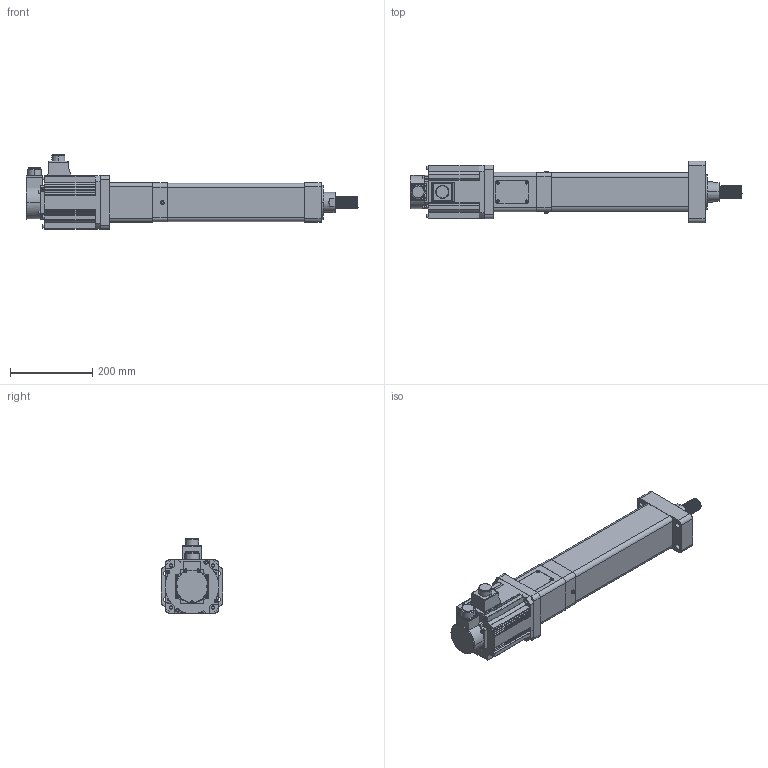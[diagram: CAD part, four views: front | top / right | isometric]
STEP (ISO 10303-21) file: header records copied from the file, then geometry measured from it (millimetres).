
FILE_DESCRIPTION (( 'STEP AP203' ), '1' );
FILE_NAME ('RKD80-D-FA-130楊擘-1-1.5-2KW-B3.ST', '2025-01-23T10:52:23', ( '' ), ( '' ), 'SwSTEP 2.0', 'SolidWorks 2024', '' );
FILE_SCHEMA (( 'CONFIG_CONTROL_DESIGN' ));
Length unit declared in the file: millimetre
Products named in the file (11): 复件 联轴器座080-017^RKD80-D-FA-130法兰-1-1.5-2KW-B3; 复件 联轴器座盖板080-017-01^RKD80-D-FA-130法兰-1-1.5-2KW-B3; 复件 RKD80-D-NEARCAP-PT^复件 RKD80-A_RKD80-D-FA-130法兰-1-1.5-2KW-B3; 复件 电机安装板080-018^RKD80-D-FA-130法兰-1-1.5-2KW-B3; 复件 前盖080-003^复件 RKD80-A_RKD80-D-FA-130法兰-1-1.5-2KW-B3; RKD80-D-FA-130法兰-1-1.5-2KW-B3; 复件 RKD80-D-BASE-PT^复件 RKD80-A_RKD80-D-FA-130法兰-1-1.5-2KW-B3; 复件 电机安装板080-018-120减速机^RKD80-D-FA-130法兰-1-1.5-2KW-B3; 复件 RKD80-D-SPLICE-PT^复件 RKD80-A_RKD80-D-FA-130法兰-1-1.5-2KW-B3; 复件 RKD80-A^RKD80-D-FA-130法兰-1-1.5-2KW-B3; 复件 伺服电机130x130^RKD80-D-FA-130法兰-1-1.5-2KW-B3
Assembly tree (10 placements, depth 3):
  RKD80-D-FA-130法兰-1-1.5-2KW-B3
    复件 RKD80-A^RKD80-D-FA-130法兰-1-1.5-2KW-B3
      复件 RKD80-D-BASE-PT^复件 RKD80-A_RKD80-D-FA-130法兰-1-1.5-2KW-B3
      复件 RKD80-D-NEARCAP-PT^复件 RKD80-A_RKD80-D-FA-130法兰-1-1.5-2KW-B3
      复件 RKD80-D-SPLICE-PT^复件 RKD80-A_RKD80-D-FA-130法兰-1-1.5-2KW-B3
      复件 前盖080-003^复件 RKD80-A_RKD80-D-FA-130法兰-1-1.5-2KW-B3
    复件 联轴器座080-017^RKD80-D-FA-130法兰-1-1.5-2KW-B3
    复件 联轴器座盖板080-017-01^RKD80-D-FA-130法兰-1-1.5-2KW-B3
    复件 电机安装板080-018-120减速机^RKD80-D-FA-130法兰-1-1.5-2KW-B3
    复件 电机安装板080-018^RKD80-D-FA-130法兰-1-1.5-2KW-B3
    复件 伺服电机130x130^RKD80-D-FA-130法兰-1-1.5-2KW-B3
Bounding box: 809 x 150 x 181 mm (x, y, z)
Volume: 5724354.9 mm3; surface area: 703985 mm2
Topology: 9 solids, 9 shells, 1187 faces, 3279 edges, 2167 vertices
Faces by surface type: cylinder 580, plane 376, cone 148, bspline 79, sphere 2, torus 2
Entity records: 58950 total; most frequent: CARTESIAN_POINT 28429, ORIENTED_EDGE 6478, DIRECTION 5634, EDGE_CURVE 3239, VERTEX_POINT 2163, AXIS2_PLACEMENT_3D 2100, VECTOR 1434, LINE 1434
